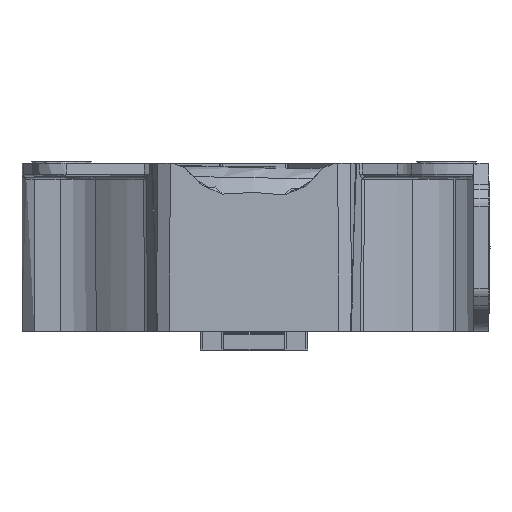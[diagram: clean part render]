
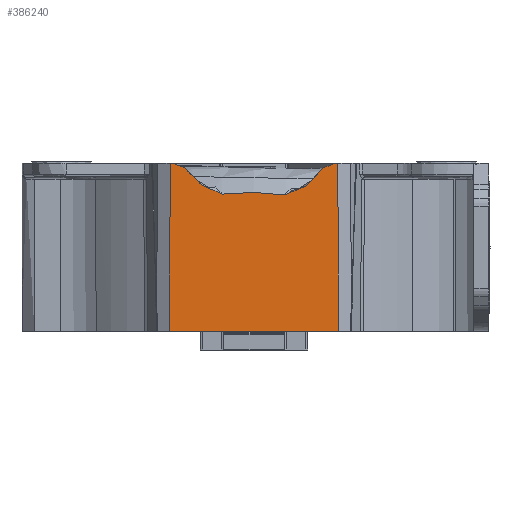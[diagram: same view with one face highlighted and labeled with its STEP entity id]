
A CAD part, left-side view. The second image highlights one B-rep face of the part: STEP entity #386240.
In plain terms, the highlighted planar face has unit normal (-1, 0, 0.009) as drawn and (-1, -0.028, 0.009) by its records, which use the part's own axes.
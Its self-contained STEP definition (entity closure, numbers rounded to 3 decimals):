
#332420=CARTESIAN_POINT('',(-39.077,-119.738,
-399.484));
#332430=VERTEX_POINT('',#332420);
#332600=CARTESIAN_POINT('',(-39.368,-119.917,
-433.484));
#332610=VERTEX_POINT('',#332600);
#332640=CARTESIAN_POINT('',(-39.077,-119.738,
-399.484));
#332650=DIRECTION('',(-0.009,-0.005,
-1.));
#332660=VECTOR('',#332650,1.);
#332670=LINE('',#332640,#332660);
#332680=EDGE_CURVE('',#332430,#332610,#332670,.T.);
#343530=CARTESIAN_POINT('',(-39.163,-116.915,
-400.363));
#343540=VERTEX_POINT('',#343530);
#343570=CARTESIAN_POINT('',(-24.466,-517.023,0.));
#343580=DIRECTION('',(-0.026,0.707,
-0.707));
#343590=VECTOR('',#343580,1.);
#343600=LINE('',#343570,#343590);
#343610=CARTESIAN_POINT('',(-39.3,-113.187,
-404.093));
#343620=VERTEX_POINT('',#343610);
#343630=EDGE_CURVE('',#343540,#343620,#343600,.T.);
#380900=CARTESIAN_POINT('',(-39.096,-119.035,
-399.484));
#380910=CARTESIAN_POINT('',(-39.107,-118.645,
-399.484));
#380920=CARTESIAN_POINT('',(-39.131,-117.857,
-399.639));
#380930=CARTESIAN_POINT('',(-39.153,-117.191,
-400.087));
#380940=CARTESIAN_POINT('',(-39.163,-116.915,
-400.363));
#380950=B_SPLINE_CURVE_WITH_KNOTS('',3,(#380900,#380910,#380920,#380930,
#380940),.UNSPECIFIED.,.F.,.F.,(4,1,4),(0.,0.5,1.),
.UNSPECIFIED.);
#380960=CARTESIAN_POINT('',(-39.096,-119.035,
-399.484));
#380970=VERTEX_POINT('',#380960);
#380980=EDGE_CURVE('',#380970,#343540,#380950,.T.);
#385360=CARTESIAN_POINT('',(-39.04,-120.774,
-398.625));
#385370=DIRECTION('',(-1.,-0.028,
0.009));
#385380=DIRECTION('',(-0.028,1.,0.));
#385390=AXIS2_PLACEMENT_3D('',#385360,#385370,#385380);
#385400=PLANE('',#385390);
#385410=CARTESIAN_POINT('',(-42.726,0.,-433.484));
#385420=DIRECTION('',(0.028,-1.,0.));
#385430=VECTOR('',#385420,1.);
#385440=LINE('',#385410,#385430);
#385450=CARTESIAN_POINT('',(-40.328,-85.657,
-433.484));
#385460=VERTEX_POINT('',#385450);
#385470=EDGE_CURVE('',#385460,#332610,#385440,.T.);
#385480=ORIENTED_EDGE('',*,*,#385470,.T.);
#385490=CARTESIAN_POINT('',(-40.026,-85.82,
-399.484));
#385500=DIRECTION('',(-0.009,0.005,
-1.));
#385510=VECTOR('',#385500,1.);
#385520=LINE('',#385490,#385510);
#385530=CARTESIAN_POINT('',(-40.026,-85.82,
-399.484));
#385540=VERTEX_POINT('',#385530);
#385550=EDGE_CURVE('',#385540,#385460,#385520,.T.);
#385560=ORIENTED_EDGE('',*,*,#385550,.T.);
#385570=CARTESIAN_POINT('',(-42.429,0.,-399.484));
#385580=DIRECTION('',(0.028,-1.,-0.));
#385590=VECTOR('',#385580,1.);
#385600=LINE('',#385570,#385590);
#385610=CARTESIAN_POINT('',(-40.007,-86.523,
-399.484));
#385620=VERTEX_POINT('',#385610);
#385630=EDGE_CURVE('',#385540,#385620,#385600,.T.);
#385640=ORIENTED_EDGE('',*,*,#385630,.F.);
#385650=CARTESIAN_POINT('',(-39.955,-88.643,
-400.363));
#385660=CARTESIAN_POINT('',(-39.96,-88.368,
-400.087));
#385670=CARTESIAN_POINT('',(-39.975,-87.701,
-399.639));
#385680=CARTESIAN_POINT('',(-39.996,-86.913,
-399.484));
#385690=CARTESIAN_POINT('',(-40.007,-86.523,
-399.484));
#385700=B_SPLINE_CURVE_WITH_KNOTS('',3,(#385650,#385660,#385670,#385680,
#385690),.UNSPECIFIED.,.F.,.F.,(4,1,4),(0.,0.5,1.),
.UNSPECIFIED.);
#385710=CARTESIAN_POINT('',(-39.955,-88.643,
-400.363));
#385720=VERTEX_POINT('',#385710);
#385730=EDGE_CURVE('',#385720,#385620,#385700,.T.);
#385740=ORIENTED_EDGE('',*,*,#385730,.T.);
#385750=CARTESIAN_POINT('',(-47.667,311.66,0.));
#385760=DIRECTION('',(0.014,-0.707,
-0.707));
#385770=VECTOR('',#385760,1.);
#385780=LINE('',#385750,#385770);
#385790=CARTESIAN_POINT('',(-39.888,-92.131,
-403.85));
#385800=VERTEX_POINT('',#385790);
#385810=EDGE_CURVE('',#385720,#385800,#385780,.T.);
#385820=ORIENTED_EDGE('',*,*,#385810,.F.);
#385830=CARTESIAN_POINT('',(-39.888,-92.131,
-403.85));
#385840=CARTESIAN_POINT('',(-39.877,-92.687,
-404.407));
#385850=CARTESIAN_POINT('',(-39.856,-93.665,
-405.124));
#385860=CARTESIAN_POINT('',(-39.819,-95.152,
-405.668));
#385870=CARTESIAN_POINT('',(-39.797,-95.955,
-405.739));
#385880=CARTESIAN_POINT('',(-39.786,-96.346,
-405.691));
#385890=B_SPLINE_CURVE_WITH_KNOTS('',3,(#385830,#385840,#385850,#385860,
#385870,#385880),.UNSPECIFIED.,.F.,.F.,(4,1,1,4),(0.,0.5,
0.75,1.),.UNSPECIFIED.);
#385900=CARTESIAN_POINT('',(-39.786,-96.346,
-405.691));
#385910=VERTEX_POINT('',#385900);
#385920=EDGE_CURVE('',#385800,#385910,#385890,.T.);
#385930=ORIENTED_EDGE('',*,*,#385920,.F.);
#385940=CARTESIAN_POINT('',(-39.434,-108.972,
-405.874));
#385950=CARTESIAN_POINT('',(-39.489,-106.886,
-405.562));
#385960=CARTESIAN_POINT('',(-39.604,-102.667,
-405.209));
#385970=CARTESIAN_POINT('',(-39.725,-98.44,
-405.438));
#385980=CARTESIAN_POINT('',(-39.786,-96.346,
-405.691));
#385990=B_SPLINE_CURVE_WITH_KNOTS('',3,(#385940,#385950,#385960,#385970,
#385980),.UNSPECIFIED.,.F.,.F.,(4,1,4),(0.,0.5,1.),
.UNSPECIFIED.);
#386000=CARTESIAN_POINT('',(-39.434,-108.972,
-405.874));
#386010=VERTEX_POINT('',#386000);
#386020=EDGE_CURVE('',#386010,#385910,#385990,.T.);
#386030=ORIENTED_EDGE('',*,*,#386020,.T.);
#386040=CARTESIAN_POINT('',(-39.434,-108.972,
-405.874));
#386050=CARTESIAN_POINT('',(-39.413,-109.741,
-405.989));
#386060=CARTESIAN_POINT('',(-39.376,-110.962,
-405.681));
#386070=CARTESIAN_POINT('',(-39.332,-112.303,
-404.885));
#386080=CARTESIAN_POINT('',(-39.31,-112.909,
-404.371));
#386090=CARTESIAN_POINT('',(-39.3,-113.187,
-404.093));
#386100=B_SPLINE_CURVE_WITH_KNOTS('',3,(#386040,#386050,#386060,#386070,
#386080,#386090),.UNSPECIFIED.,.F.,.F.,(4,1,1,4),(0.,0.497,
0.748,1.),.UNSPECIFIED.);
#386110=EDGE_CURVE('',#386010,#343620,#386100,.T.);
#386120=ORIENTED_EDGE('',*,*,#386110,.F.);
#386130=ORIENTED_EDGE('',*,*,#343630,.T.);
#386140=ORIENTED_EDGE('',*,*,#380980,.T.);
#386150=CARTESIAN_POINT('',(-42.429,0.,-399.484));
#386160=DIRECTION('',(0.028,-1.,-0.));
#386170=VECTOR('',#386160,1.);
#386180=LINE('',#386150,#386170);
#386190=EDGE_CURVE('',#380970,#332430,#386180,.T.);
#386200=ORIENTED_EDGE('',*,*,#386190,.F.);
#386210=ORIENTED_EDGE('',*,*,#332680,.F.);
#386220=EDGE_LOOP('',(#386210,#386200,#386140,#386130,#386120,#386030,
#385930,#385820,#385740,#385640,#385560,#385480));
#386230=FACE_OUTER_BOUND('',#386220,.T.);
#386240=ADVANCED_FACE('',(#386230),#385400,.T.);
